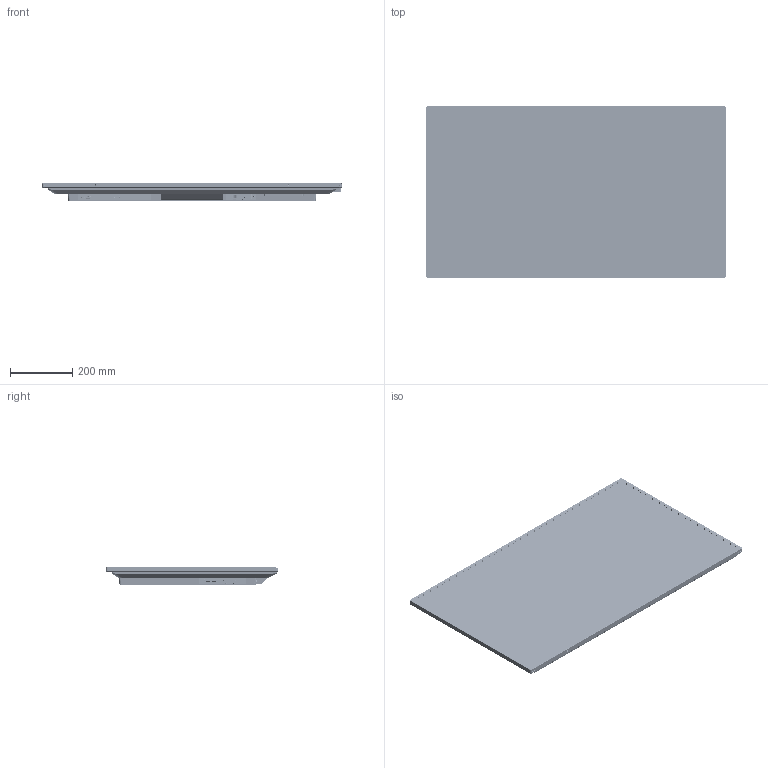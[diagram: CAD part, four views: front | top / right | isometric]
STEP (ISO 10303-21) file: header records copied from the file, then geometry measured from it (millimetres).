
FILE_DESCRIPTION (( 'STEP AP203' ), '1' );
FILE_NAME ('SLM432 Panel 3D 122023.STEP', '2023-12-21T17:38:15', ( '' ), ( '' ), 'SwSTEP 2.0', 'SolidWorks 2023', '' );
FILE_SCHEMA (( 'CONFIG_CONTROL_DESIGN' ));
Products named in the file (1): SLM432 Panel 3D 122023
Bounding box: 964.98 x 553.22 x 60 mm (x, y, z)
Surface area: 2649389.7 mm2 (no closed solid volume)
Topology: 0 solids, 115 shells, 29145 faces, 82863 edges, 53184 vertices
Faces by surface type: plane 19891, cylinder 5853, bspline 2386, cone 524, torus 381, sphere 110
Entity records: 1147587 total; most frequent: CARTESIAN_POINT 407493, ORIENTED_EDGE 165558, DIRECTION 135829, EDGE_CURVE 82800, VECTOR 62837, LINE 62837, VERTEX_POINT 53183, AXIS2_PLACEMENT_3D 36496
